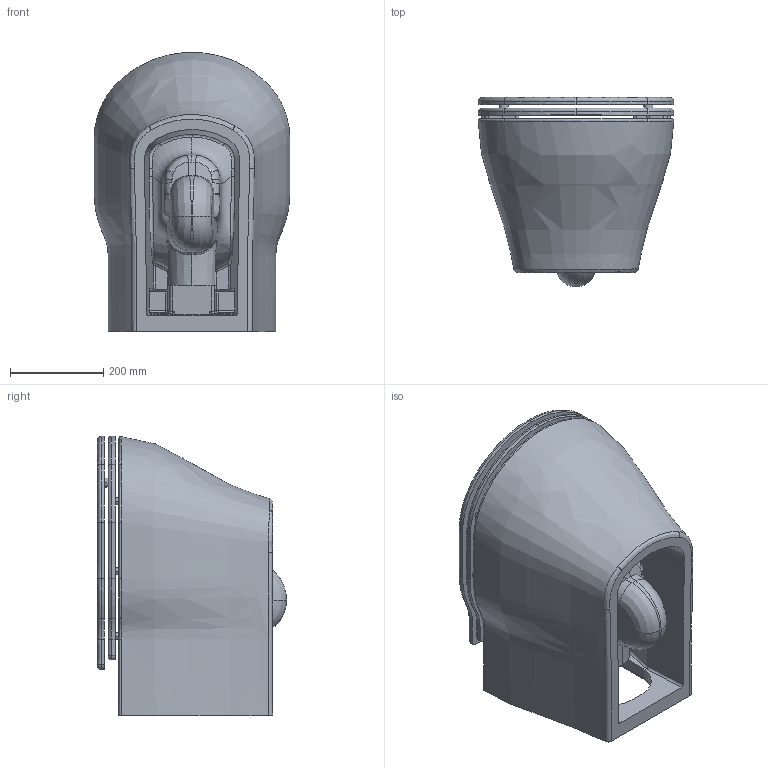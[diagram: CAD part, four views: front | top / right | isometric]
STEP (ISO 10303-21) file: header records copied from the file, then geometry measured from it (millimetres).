
FILE_DESCRIPTION (( 'STEP AP203' ), '1' );
FILE_NAME ('Assieme XL100SOSK_XL1800.STEP', '2018-12-06T14:50:05', ( '' ), ( '' ), 'SwSTEP 2.0', 'SolidWorks 2019', '' );
FILE_SCHEMA (( 'CONFIG_CONTROL_DESIGN' ));
Length unit declared in the file: millimetre
Products named in the file (3): XL 1800; XL SOSPESO WC; Assieme XL100SOSK_XL1800
Assembly tree (2 placements, depth 2):
  Assieme XL100SOSK_XL1800
    XL SOSPESO WC
    XL 1800
Bounding box: 419.93 x 406 x 599.5 mm (x, y, z)
Volume: 33629840.4 mm3; surface area: 2010326.1 mm2
Topology: 2 solids, 2 shells, 435 faces, 1134 edges, 705 vertices
Faces by surface type: bspline 225, cylinder 93, plane 76, sphere 16, torus 13, cone 12
Entity records: 150802 total; most frequent: CARTESIAN_POINT 141563, ORIENTED_EDGE 2236, DIRECTION 1372, EDGE_CURVE 1118, VERTEX_POINT 701, AXIS2_PLACEMENT_3D 553, EDGE_LOOP 461, B_SPLINE_CURVE_WITH_KNOTS 461
